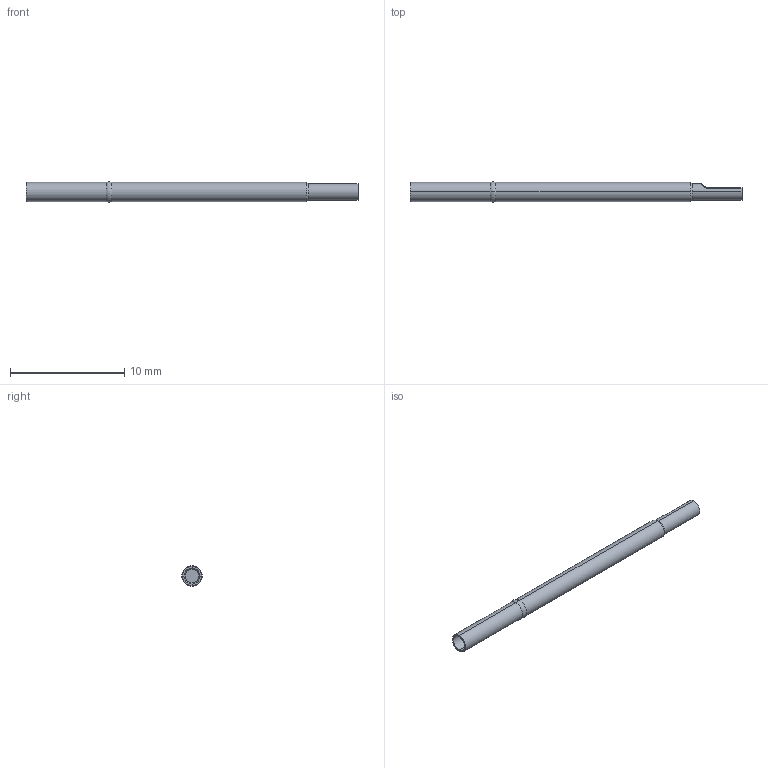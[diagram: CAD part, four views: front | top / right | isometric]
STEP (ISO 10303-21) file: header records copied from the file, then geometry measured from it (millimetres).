
FILE_DESCRIPTION (( 'STEP AP203' ), '1' );
FILE_NAME ('C-07-S8-N.STEP', '2024-11-29T05:13:25', ( '' ), ( '' ), 'SwSTEP 2.0', 'SolidWorks 2020', '' );
FILE_SCHEMA (( 'CONFIG_CONTROL_DESIGN' ));
Length unit declared in the file: millimetre
Products named in the file (1): C-07-S8-N
Bounding box: 29 x 1.77 x 1.8 mm (x, y, z)
Volume: 19.8 mm3; surface area: 266 mm2
Topology: 1 solids, 1 shells, 35 faces, 74 edges, 42 vertices
Faces by surface type: cylinder 17, torus 6, plane 6, cone 4, bspline 2
Entity records: 1125 total; most frequent: CARTESIAN_POINT 282, DIRECTION 180, ORIENTED_EDGE 148, AXIS2_PLACEMENT_3D 76, EDGE_CURVE 74, VERTEX_POINT 42, CIRCLE 42, EDGE_LOOP 36
